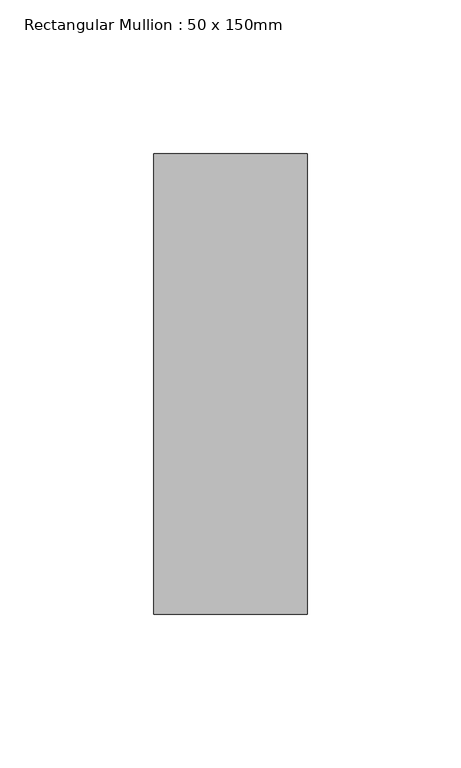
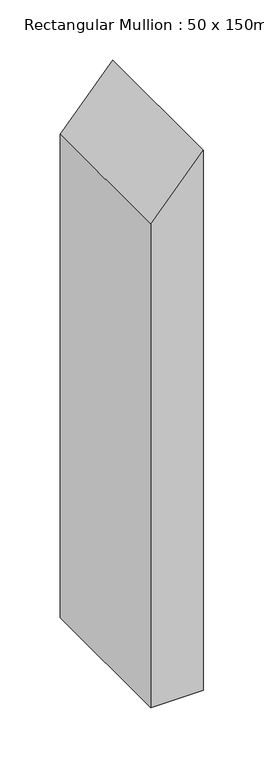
"""IFC4 building model written with IfcOpenShell, lengths in millimetres: member geometry, Rectangular Mullion : 50 x 150mm."""

from ifc_helpers import new_model, si_unit, frame, origin, place, context, project, spatial, polyline, outline, extrude, source, transform, mapped, element, save


def rectangular_mullion_50_x_150mm_f86912e8(model_context):
    return source(origin(), model_context, "Body", "SweptSolid", [
        extrude(outline(polyline([(-47.3292929, 25.0), (-104.3576144, -25.0), (-593.1409857, -25.0), (-593.1409857, 25.0), (-47.3292929, 25.0)])), frame((0.0, -75.0, 0.0), z_axis=(0.0, 1.0, 0.0), x_axis=(0.0, 0.0, 1.0)), (0.0, 0.0, 1.0), 150.0),
    ])


if __name__ == "__main__":
    model = new_model("IFC4")
    model_context = context("Model", 3, world=origin())
    ifc_project = project(units=[si_unit("LENGTHUNIT", "METRE", prefix="MILLI")], contexts=[model_context])
    site = spatial("IfcSite", under=ifc_project)
    building = spatial("IfcBuilding", under=site)
    placement = place(None, origin())
    rectangular_mullion_50_x_150mm_shape = rectangular_mullion_50_x_150mm_f86912e8(model_context)
    element("IfcMember", 1, ObjectType="Rectangular Mullion : 50 x 150mm", at=placement, inside=building, context=model_context, shape_type="MappedRepresentation", body=[
        mapped(rectangular_mullion_50_x_150mm_shape, transform((0.0, 0.0, 0.0), x_axis=(1.0, 0.0, 0.0), y_axis=(0.0, 1.0, 0.0), z_axis=(0.0, 0.0, 1.0))),
    ])
    save(model, "model.ifc")
